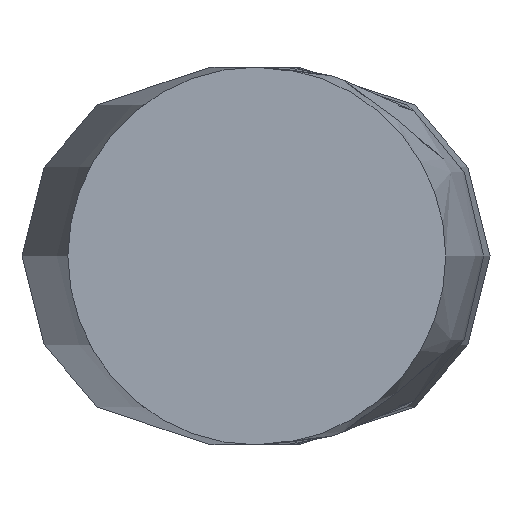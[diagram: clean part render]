
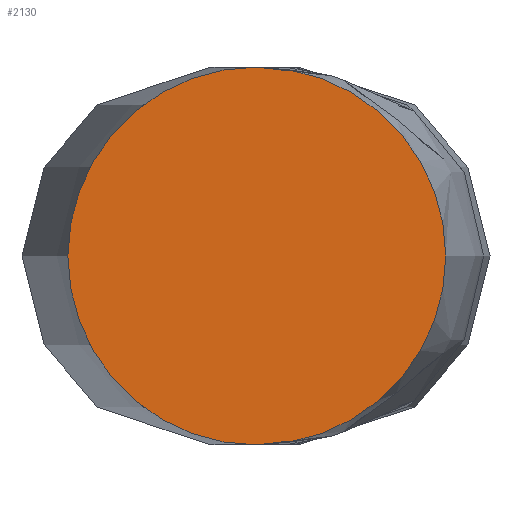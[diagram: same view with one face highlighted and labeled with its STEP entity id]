
A CAD part, front view. The second image highlights one B-rep face of the part: STEP entity #2130.
In plain terms, the highlighted planar face has unit normal (0, -1, 0).
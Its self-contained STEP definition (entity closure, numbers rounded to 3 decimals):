
#62 = CARTESIAN_POINT ( 'NONE',  ( 0., 0., 12. ) ) ;
#302 = FACE_OUTER_BOUND ( 'NONE', #2630, .T. ) ;
#444 = VERTEX_POINT ( 'NONE', #62 ) ;
#473 = PLANE ( 'NONE',  #1701 ) ;
#567 = CIRCLE ( 'NONE', #1397, 12. ) ;
#755 = CARTESIAN_POINT ( 'NONE',  ( 0., 0., 0. ) ) ;
#984 = DIRECTION ( 'NONE',  ( 0., 1., 0. ) ) ;
#1048 = DIRECTION ( 'NONE',  ( 0., 1., 0. ) ) ;
#1070 = EDGE_CURVE ( 'NONE', #3414, #444, #1670, .T. ) ;
#1397 = AXIS2_PLACEMENT_3D ( 'NONE', #1946, #1418, #1980 ) ;
#1418 = DIRECTION ( 'NONE',  ( 0., 1., 0. ) ) ;
#1670 = CIRCLE ( 'NONE', #2957, 12. ) ;
#1701 = AXIS2_PLACEMENT_3D ( 'NONE', #755, #1048, #1884 ) ;
#1884 = DIRECTION ( 'NONE',  ( 0., 0., 1. ) ) ;
#1946 = CARTESIAN_POINT ( 'NONE',  ( 0., 0., 0. ) ) ;
#1980 = DIRECTION ( 'NONE',  ( 0., 0., 1. ) ) ;
#2123 = DIRECTION ( 'NONE',  ( 0., 0., 1. ) ) ;
#2130 = ADVANCED_FACE ( 'NONE', ( #302 ), #473, .F. ) ;
#2517 = EDGE_CURVE ( 'NONE', #444, #3414, #567, .T. ) ;
#2630 = EDGE_LOOP ( 'NONE', ( #3212, #3208 ) ) ;
#2793 = CARTESIAN_POINT ( 'NONE',  ( 0., 0., -12. ) ) ;
#2957 = AXIS2_PLACEMENT_3D ( 'NONE', #2964, #984, #2123 ) ;
#2964 = CARTESIAN_POINT ( 'NONE',  ( 0., 0., 0. ) ) ;
#3208 = ORIENTED_EDGE ( 'NONE', *, *, #1070, .F. ) ;
#3212 = ORIENTED_EDGE ( 'NONE', *, *, #2517, .F. ) ;
#3414 = VERTEX_POINT ( 'NONE', #2793 ) ;
